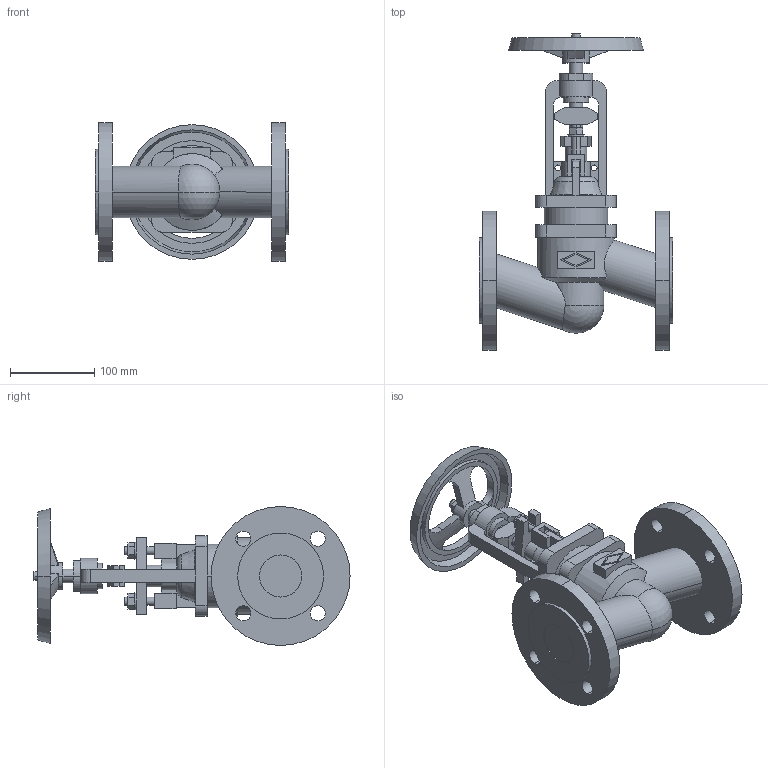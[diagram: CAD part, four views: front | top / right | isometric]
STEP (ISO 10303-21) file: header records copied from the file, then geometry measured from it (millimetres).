
FILE_DESCRIPTION(('OneSpaceDesigner STEP Export'),'2;1');
FILE_NAME('c000003751.stp','2009-06-16T10:59:24',(''),(''),'OneSpace Designer STEP processor for AP214 (Solid Model)','OneSpace Modeling 15.50B 03-Nov-2007 (C) CoCreate Software GmbH','');
FILE_SCHEMA(('AUTOMOTIVE_DESIGN { 1 0 10303 214 1 1 1 1 }'));
Length unit declared in the file: millimetre
Products named in the file (1): 1
Bounding box: 230 x 375.4 x 165 mm (x, y, z)
Volume: 2334685.3 mm3; surface area: 283456.1 mm2
Topology: 1 solids, 1 shells, 289 faces, 756 edges, 495 vertices
Faces by surface type: plane 148, cylinder 107, cone 24, torus 8, sphere 2
Entity records: 11329 total; most frequent: CARTESIAN_POINT 2313, ORIENTED_EDGE 1508, DIRECTION 1239, EDGE_CURVE 754, VERTEX_POINT 495, VECTOR 423, LINE 423, AXIS2_PLACEMENT_3D 408
